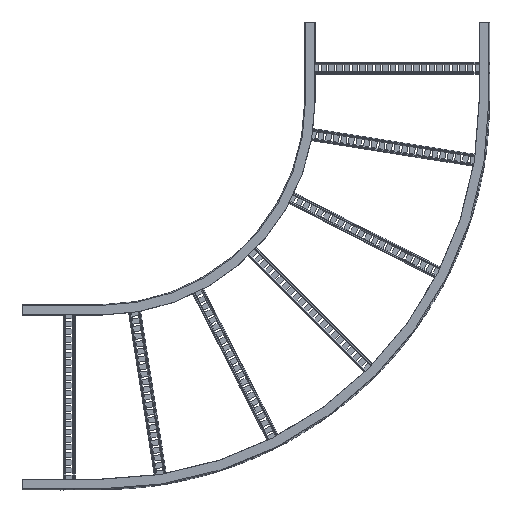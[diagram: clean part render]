
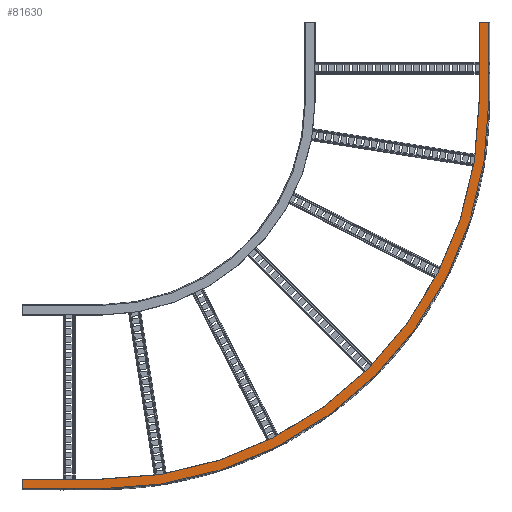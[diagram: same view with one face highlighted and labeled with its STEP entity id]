
A CAD part, front view. The second image highlights one B-rep face of the part: STEP entity #81630.
In plain terms, the highlighted planar face has unit normal (0, -1, 0).
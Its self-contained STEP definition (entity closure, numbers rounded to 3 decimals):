
#4941 = DIRECTION ( 'NONE',  ( 0., -1., 0. ) ) ;
#5120 = VECTOR ( 'NONE', #81268, 1000. ) ;
#7065 = DIRECTION ( 'NONE',  ( 0., 0., 1. ) ) ;
#10548 = ORIENTED_EDGE ( 'NONE', *, *, #171455, .F. ) ;
#11755 = ORIENTED_EDGE ( 'NONE', *, *, #107209, .T. ) ;
#13782 = ORIENTED_EDGE ( 'NONE', *, *, #89590, .T. ) ;
#18130 = VERTEX_POINT ( 'NONE', #189201 ) ;
#24918 = VERTEX_POINT ( 'NONE', #186791 ) ;
#28867 = CARTESIAN_POINT ( 'NONE',  ( -1509., -2., -1514.7 ) ) ;
#35127 = LINE ( 'NONE', #165357, #111015 ) ;
#35182 = CARTESIAN_POINT ( 'NONE',  ( -1251.8, -2., -1514.7 ) ) ;
#37227 = FACE_OUTER_BOUND ( 'NONE', #161679, .T. ) ;
#40970 = CARTESIAN_POINT ( 'NONE',  ( -1251.8, -2., -257.2 ) ) ;
#43046 = LINE ( 'NONE', #178004, #5120 ) ;
#44758 = CIRCLE ( 'NONE', #184288, 1226.5 ) ;
#44816 = LINE ( 'NONE', #197592, #125829 ) ;
#51610 = CARTESIAN_POINT ( 'NONE',  ( -1509., -2., -1483.7 ) ) ;
#52579 = CARTESIAN_POINT ( 'NONE',  ( -25.3, -2., -257.2 ) ) ;
#57223 = DIRECTION ( 'NONE',  ( 0., 0., 1. ) ) ;
#59461 = EDGE_CURVE ( 'NONE', #104004, #205848, #201378, .T. ) ;
#67495 = EDGE_CURVE ( 'NONE', #164649, #18130, #35127, .T. ) ;
#67985 = CARTESIAN_POINT ( 'NONE',  ( -1509., -2., -1514.7 ) ) ;
#69599 = AXIS2_PLACEMENT_3D ( 'NONE', #40970, #154052, #57223 ) ;
#76275 = ORIENTED_EDGE ( 'NONE', *, *, #67495, .F. ) ;
#81268 = DIRECTION ( 'NONE',  ( 0., 0., 1. ) ) ;
#81630 = ADVANCED_FACE ( 'NONE', ( #37227 ), #101893, .T. ) ;
#88460 = EDGE_CURVE ( 'NONE', #24918, #104004, #209571, .T. ) ;
#89590 = EDGE_CURVE ( 'NONE', #164649, #24918, #44758, .T. ) ;
#90014 = ORIENTED_EDGE ( 'NONE', *, *, #131631, .F. ) ;
#100787 = DIRECTION ( 'NONE',  ( 1., 0., 0. ) ) ;
#101092 = CARTESIAN_POINT ( 'NONE',  ( 5.7, -2., -257.2 ) ) ;
#101893 = PLANE ( 'NONE',  #131896 ) ;
#104004 = VERTEX_POINT ( 'NONE', #51610 ) ;
#104015 = DIRECTION ( 'NONE',  ( 0., 1., 0. ) ) ;
#107209 = EDGE_CURVE ( 'NONE', #189923, #179610, #43046, .T. ) ;
#111015 = VECTOR ( 'NONE', #181591, 1000. ) ;
#112222 = ORIENTED_EDGE ( 'NONE', *, *, #88460, .T. ) ;
#115285 = VECTOR ( 'NONE', #117472, 1000. ) ;
#117472 = DIRECTION ( 'NONE',  ( 0., 0., -1. ) ) ;
#118106 = DIRECTION ( 'NONE',  ( 1., 0., 0. ) ) ;
#120082 = VERTEX_POINT ( 'NONE', #127180 ) ;
#123549 = VECTOR ( 'NONE', #170921, 1000. ) ;
#125829 = VECTOR ( 'NONE', #100787, 1000. ) ;
#127180 = CARTESIAN_POINT ( 'NONE',  ( -1251.8, -2., -1514.7 ) ) ;
#131631 = EDGE_CURVE ( 'NONE', #18130, #179610, #44816, .T. ) ;
#131896 = AXIS2_PLACEMENT_3D ( 'NONE', #198003, #4941, #118106 ) ;
#132461 = ORIENTED_EDGE ( 'NONE', *, *, #59461, .T. ) ;
#137012 = CARTESIAN_POINT ( 'NONE',  ( -1251.8, -2., -1483.7 ) ) ;
#139988 = EDGE_CURVE ( 'NONE', #189923, #120082, #193052, .T. ) ;
#148294 = DIRECTION ( 'NONE',  ( -1., 0., 0. ) ) ;
#154052 = DIRECTION ( 'NONE',  ( 0., 1., 0. ) ) ;
#161679 = EDGE_LOOP ( 'NONE', ( #90014, #76275, #13782, #112222, #132461, #10548, #178781, #11755 ) ) ;
#162736 = VECTOR ( 'NONE', #148294, 1000. ) ;
#164649 = VERTEX_POINT ( 'NONE', #52579 ) ;
#165357 = CARTESIAN_POINT ( 'NONE',  ( -25.3, -2., -257.2 ) ) ;
#170921 = DIRECTION ( 'NONE',  ( -1., 0., 0. ) ) ;
#171455 = EDGE_CURVE ( 'NONE', #120082, #205848, #200846, .T. ) ;
#178004 = CARTESIAN_POINT ( 'NONE',  ( 5.7, -2., -257.2 ) ) ;
#178781 = ORIENTED_EDGE ( 'NONE', *, *, #139988, .F. ) ;
#179610 = VERTEX_POINT ( 'NONE', #186138 ) ;
#181591 = DIRECTION ( 'NONE',  ( 0., 0., 1. ) ) ;
#184288 = AXIS2_PLACEMENT_3D ( 'NONE', #200887, #104015, #7065 ) ;
#186138 = CARTESIAN_POINT ( 'NONE',  ( 5.7, -2., 0. ) ) ;
#186791 = CARTESIAN_POINT ( 'NONE',  ( -1251.8, -2., -1483.7 ) ) ;
#189201 = CARTESIAN_POINT ( 'NONE',  ( -25.3, -2., 0. ) ) ;
#189923 = VERTEX_POINT ( 'NONE', #101092 ) ;
#193052 = CIRCLE ( 'NONE', #69599, 1257.5 ) ;
#197592 = CARTESIAN_POINT ( 'NONE',  ( 5.7, -2., 0. ) ) ;
#198003 = CARTESIAN_POINT ( 'NONE',  ( 5.7, -2., -257.2 ) ) ;
#200846 = LINE ( 'NONE', #35182, #162736 ) ;
#200887 = CARTESIAN_POINT ( 'NONE',  ( -1251.8, -2., -257.2 ) ) ;
#201378 = LINE ( 'NONE', #67985, #115285 ) ;
#205848 = VERTEX_POINT ( 'NONE', #28867 ) ;
#209571 = LINE ( 'NONE', #137012, #123549 ) ;
